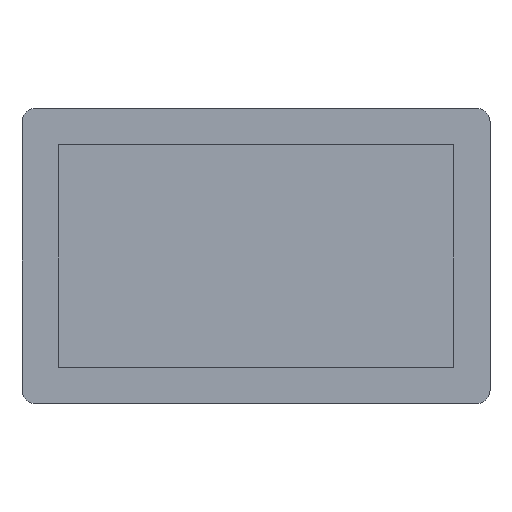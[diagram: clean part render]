
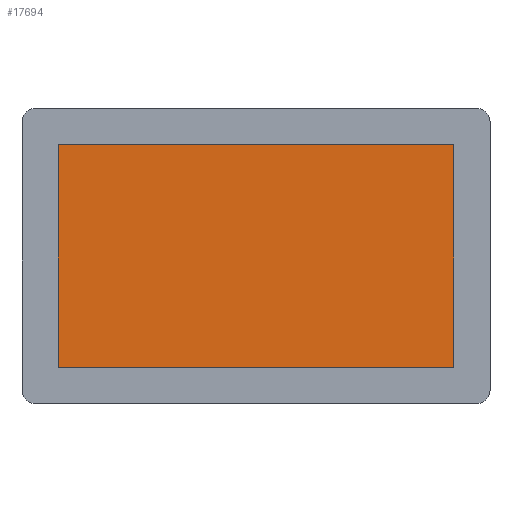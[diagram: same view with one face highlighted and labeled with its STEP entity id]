
A CAD part, top view. The second image highlights one B-rep face of the part: STEP entity #17694.
In plain terms, the highlighted planar face has unit normal (0, 0, 1).
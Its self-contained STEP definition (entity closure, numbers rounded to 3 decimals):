
#5353=DIRECTION('',(0.,-1.,0.));
#5354=VECTOR('',#5353,165.24);
#5355=CARTESIAN_POINT('',(-146.88,82.62,2.35));
#5356=LINE('',#5355,#5354);
#5357=DIRECTION('',(-1.,0.,0.));
#5358=VECTOR('',#5357,293.76);
#5359=CARTESIAN_POINT('',(146.88,82.62,2.35));
#5360=LINE('',#5359,#5358);
#5361=DIRECTION('',(0.,1.,0.));
#5362=VECTOR('',#5361,165.24);
#5363=CARTESIAN_POINT('',(146.88,-82.62,2.35));
#5364=LINE('',#5363,#5362);
#5365=DIRECTION('',(1.,0.,0.));
#5366=VECTOR('',#5365,293.76);
#5367=CARTESIAN_POINT('',(-146.88,-82.62,2.35));
#5368=LINE('',#5367,#5366);
#5865=CARTESIAN_POINT('',(-146.88,82.62,2.35));
#5866=CARTESIAN_POINT('',(-146.88,-82.62,2.35));
#5867=VERTEX_POINT('',#5865);
#5868=VERTEX_POINT('',#5866);
#5869=CARTESIAN_POINT('',(146.88,-82.62,2.35));
#5870=VERTEX_POINT('',#5869);
#5871=CARTESIAN_POINT('',(146.88,82.62,2.35));
#5872=VERTEX_POINT('',#5871);
#17683=CARTESIAN_POINT('',(-173.88,-109.62,2.35));
#17684=DIRECTION('',(0.,0.,1.));
#17685=DIRECTION('',(1.,0.,0.));
#17686=AXIS2_PLACEMENT_3D('',#17683,#17684,#17685);
#17687=PLANE('',#17686);
#17688=ORIENTED_EDGE('',*,*,#17635,.F.);
#17689=ORIENTED_EDGE('',*,*,#17650,.F.);
#17690=ORIENTED_EDGE('',*,*,#17664,.F.);
#17691=ORIENTED_EDGE('',*,*,#17677,.F.);
#17692=EDGE_LOOP('',(#17688,#17689,#17690,#17691));
#17693=FACE_OUTER_BOUND('',#17692,.F.);
#17635=EDGE_CURVE('',#5867,#5868,#5356,.T.);
#17650=EDGE_CURVE('',#5872,#5867,#5360,.T.);
#17664=EDGE_CURVE('',#5870,#5872,#5364,.T.);
#17677=EDGE_CURVE('',#5868,#5870,#5368,.T.);
#17694=ADVANCED_FACE('',(#17693),#17687,.T.);
